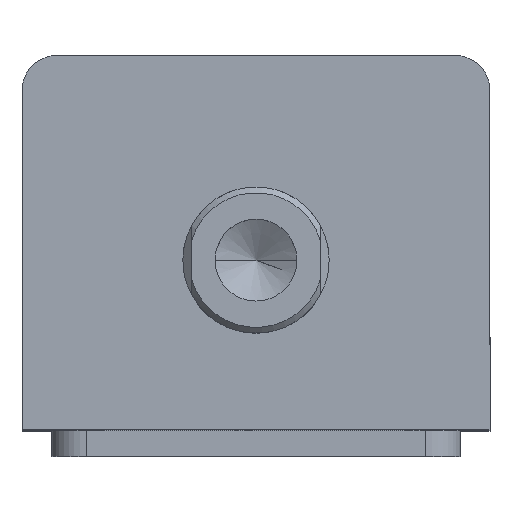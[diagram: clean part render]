
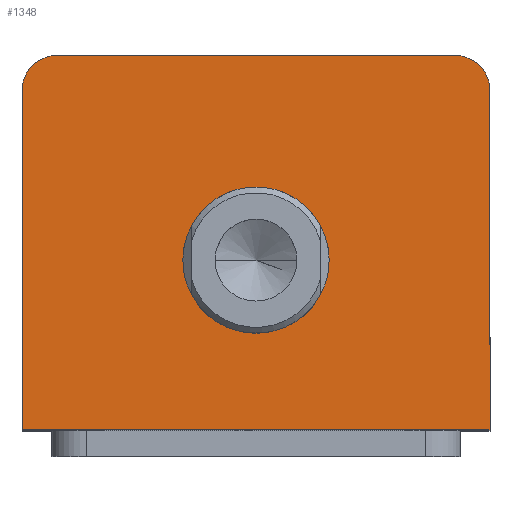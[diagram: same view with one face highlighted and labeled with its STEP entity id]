
A CAD part, top view. The second image highlights one B-rep face of the part: STEP entity #1348.
In plain terms, the highlighted planar face has unit normal (0, 0, 1).
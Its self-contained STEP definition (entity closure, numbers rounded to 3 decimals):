
#126 = AXIS2_PLACEMENT_3D ( 'NONE', #3401, #3392, #3391 ) ;
#410 = FACE_BOUND ( 'NONE', #2138, .T. ) ;
#414 = FACE_OUTER_BOUND ( 'NONE', #2147, .T. ) ;
#802 = EDGE_CURVE ( 'NONE', #1852, #1778, #2277, .T. ) ;
#834 = EDGE_CURVE ( 'NONE', #1770, #1779, #2317, .T. ) ;
#849 = EDGE_CURVE ( 'NONE', #1779, #1925, #2351, .T. ) ;
#866 = EDGE_CURVE ( 'NONE', #1767, #1890, #2380, .T. ) ;
#879 = EDGE_CURVE ( 'NONE', #1925, #1767, #2396, .T. ) ;
#888 = EDGE_CURVE ( 'NONE', #1890, #1807, #2409, .T. ) ;
#892 = EDGE_CURVE ( 'NONE', #1807, #1770, #2415, .T. ) ;
#905 = EDGE_CURVE ( 'NONE', #1778, #1852, #2441, .T. ) ;
#984 = DIRECTION ( 'NONE',  ( 1., 0., 0. ) ) ;
#1039 = DIRECTION ( 'NONE',  ( 0., 0., 1. ) ) ;
#1084 = CARTESIAN_POINT ( 'NONE',  ( -34., 26., 130. ) ) ;
#1107 = CARTESIAN_POINT ( 'NONE',  ( -40., -32., 130. ) ) ;
#1122 = DIRECTION ( 'NONE',  ( 1., 0., 0. ) ) ;
#1155 = CARTESIAN_POINT ( 'NONE',  ( 40., 32., 130. ) ) ;
#1158 = DIRECTION ( 'NONE',  ( 0., 1., 0. ) ) ;
#1181 = CARTESIAN_POINT ( 'NONE',  ( -40., 32., 130. ) ) ;
#1182 = DIRECTION ( 'NONE',  ( 0., 0., 1. ) ) ;
#1183 = DIRECTION ( 'NONE',  ( 1., 0., 0. ) ) ;
#1184 = DIRECTION ( 'NONE',  ( 0., -1., 0. ) ) ;
#1190 = DIRECTION ( 'NONE',  ( 0., 0., 1. ) ) ;
#1191 = DIRECTION ( 'NONE',  ( 1., 0., 0. ) ) ;
#1215 = CARTESIAN_POINT ( 'NONE',  ( 34., 26., 130. ) ) ;
#1241 = DIRECTION ( 'NONE',  ( -1., 0., 0. ) ) ;
#1242 = CARTESIAN_POINT ( 'NONE',  ( 0., -3., 130. ) ) ;
#1257 = CARTESIAN_POINT ( 'NONE',  ( -40., 32., 130. ) ) ;
#1348 = ADVANCED_FACE ( 'NONE', ( #410, #414 ), #3405, .T. ) ;
#1393 = AXIS2_PLACEMENT_3D ( 'NONE', #2770, #2769, #2768 ) ;
#1649 = ORIENTED_EDGE ( 'NONE', *, *, #879, .T. ) ;
#1650 = ORIENTED_EDGE ( 'NONE', *, *, #849, .T. ) ;
#1651 = ORIENTED_EDGE ( 'NONE', *, *, #834, .T. ) ;
#1652 = ORIENTED_EDGE ( 'NONE', *, *, #892, .T. ) ;
#1653 = ORIENTED_EDGE ( 'NONE', *, *, #888, .T. ) ;
#1654 = ORIENTED_EDGE ( 'NONE', *, *, #866, .T. ) ;
#1655 = ORIENTED_EDGE ( 'NONE', *, *, #802, .F. ) ;
#1656 = ORIENTED_EDGE ( 'NONE', *, *, #905, .F. ) ;
#1767 = VERTEX_POINT ( 'NONE', #3000 ) ;
#1770 = VERTEX_POINT ( 'NONE', #3007 ) ;
#1778 = VERTEX_POINT ( 'NONE', #2990 ) ;
#1779 = VERTEX_POINT ( 'NONE', #2989 ) ;
#1807 = VERTEX_POINT ( 'NONE', #2956 ) ;
#1852 = VERTEX_POINT ( 'NONE', #2901 ) ;
#1890 = VERTEX_POINT ( 'NONE', #2854 ) ;
#1925 = VERTEX_POINT ( 'NONE', #3191 ) ;
#2138 = EDGE_LOOP ( 'NONE', ( #1656, #1655 ) ) ;
#2147 = EDGE_LOOP ( 'NONE', ( #1654, #1653, #1652, #1651, #1650, #1649 ) ) ;
#2277 = CIRCLE ( 'NONE', #1393, 12.5 ) ;
#2317 = LINE ( 'NONE', #1107, #2324 ) ;
#2324 = VECTOR ( 'NONE', #1122, 1000. ) ;
#2351 = LINE ( 'NONE', #1155, #2354 ) ;
#2354 = VECTOR ( 'NONE', #1158, 1000. ) ;
#2380 = LINE ( 'NONE', #1257, #2383 ) ;
#2383 = VECTOR ( 'NONE', #1241, 1000. ) ;
#2396 = CIRCLE ( 'NONE', #3283, 6. ) ;
#2409 = CIRCLE ( 'NONE', #3276, 6. ) ;
#2415 = LINE ( 'NONE', #1181, #2418 ) ;
#2418 = VECTOR ( 'NONE', #1184, 1000. ) ;
#2441 = CIRCLE ( 'NONE', #3274, 12.5 ) ;
#2768 = DIRECTION ( 'NONE',  ( 1., 0., 0. ) ) ;
#2769 = DIRECTION ( 'NONE',  ( 0., 0., 1. ) ) ;
#2770 = CARTESIAN_POINT ( 'NONE',  ( 0., -3., 130. ) ) ;
#2854 = CARTESIAN_POINT ( 'NONE',  ( -34., 32., 130. ) ) ;
#2901 = CARTESIAN_POINT ( 'NONE',  ( -12.5, -3., 130. ) ) ;
#2956 = CARTESIAN_POINT ( 'NONE',  ( -40., 26., 130. ) ) ;
#2989 = CARTESIAN_POINT ( 'NONE',  ( 40., -32., 130. ) ) ;
#2990 = CARTESIAN_POINT ( 'NONE',  ( 12.5, -3., 130. ) ) ;
#3000 = CARTESIAN_POINT ( 'NONE',  ( 34., 32., 130. ) ) ;
#3007 = CARTESIAN_POINT ( 'NONE',  ( -40., -32., 130. ) ) ;
#3191 = CARTESIAN_POINT ( 'NONE',  ( 40., 26., 130. ) ) ;
#3274 = AXIS2_PLACEMENT_3D ( 'NONE', #1242, #1039, #984 ) ;
#3276 = AXIS2_PLACEMENT_3D ( 'NONE', #1084, #1190, #1191 ) ;
#3283 = AXIS2_PLACEMENT_3D ( 'NONE', #1215, #1182, #1183 ) ;
#3391 = DIRECTION ( 'NONE',  ( 1., 0., 0. ) ) ;
#3392 = DIRECTION ( 'NONE',  ( 0., 0., 1. ) ) ;
#3401 = CARTESIAN_POINT ( 'NONE',  ( 0., 0., 130. ) ) ;
#3405 = PLANE ( 'NONE',  #126 ) ;
